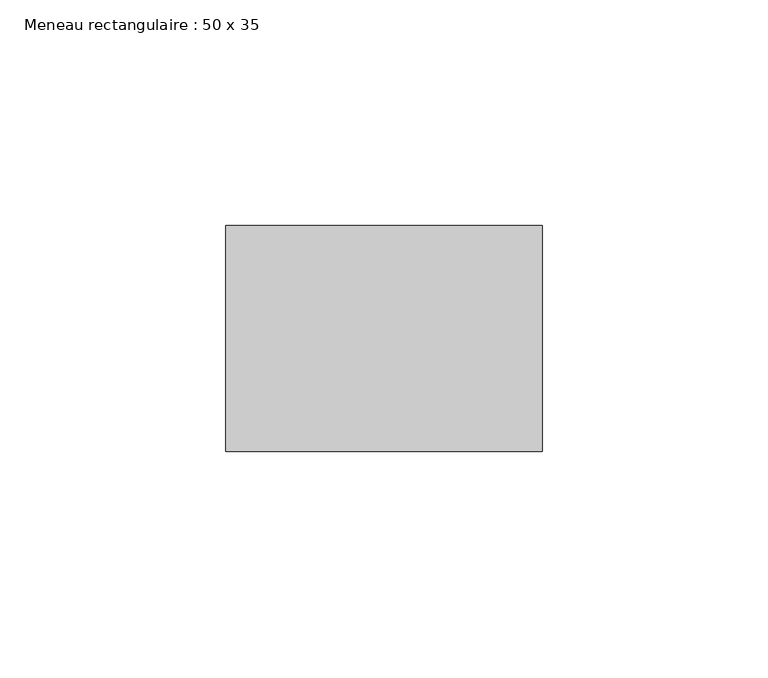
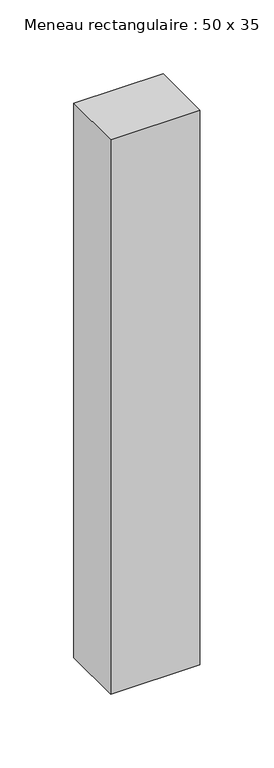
"""IFC4 building model written with IfcOpenShell, lengths in millimetres: member geometry, Meneau rectangulaire : 50 x 35."""

from ifc_helpers import new_model, si_unit, frame, origin, place, context, project, spatial, polyline, outline, extrude, source, transform, mapped, element, save


def meneau_rectangulaire_50_x_35_c14e82b6(model_context):
    return source(origin(), model_context, "Body", "SweptSolid", [
        extrude(outline(polyline([(0.0, 0.0), (0.0, -50.0), (-70.0, -50.0), (-70.0, 0.0), (0.0, 0.0)])), frame((0.0, 0.0, -459.0), z_axis=(0.0, 0.0, 1.0), x_axis=(1.0, 0.0, 0.0)), (0.0, 0.0, 1.0), 459.0),
    ])


if __name__ == "__main__":
    model = new_model("IFC4")
    model_context = context("Model", 3, world=origin())
    ifc_project = project(units=[si_unit("LENGTHUNIT", "METRE", prefix="MILLI")], contexts=[model_context])
    site = spatial("IfcSite", under=ifc_project)
    building = spatial("IfcBuilding", under=site)
    placement = place(None, origin())
    meneau_rectangulaire_50_x_35_shape = meneau_rectangulaire_50_x_35_c14e82b6(model_context)
    element("IfcMember", 1, ObjectType="Meneau rectangulaire : 50 x 35", at=placement, inside=building, context=model_context, shape_type="MappedRepresentation", body=[
        mapped(meneau_rectangulaire_50_x_35_shape, transform((0.0, 0.0, 0.0), x_axis=(1.0, 0.0, 0.0), y_axis=(0.0, 1.0, 0.0), z_axis=(0.0, 0.0, 1.0))),
    ])
    save(model, "model.ifc")
